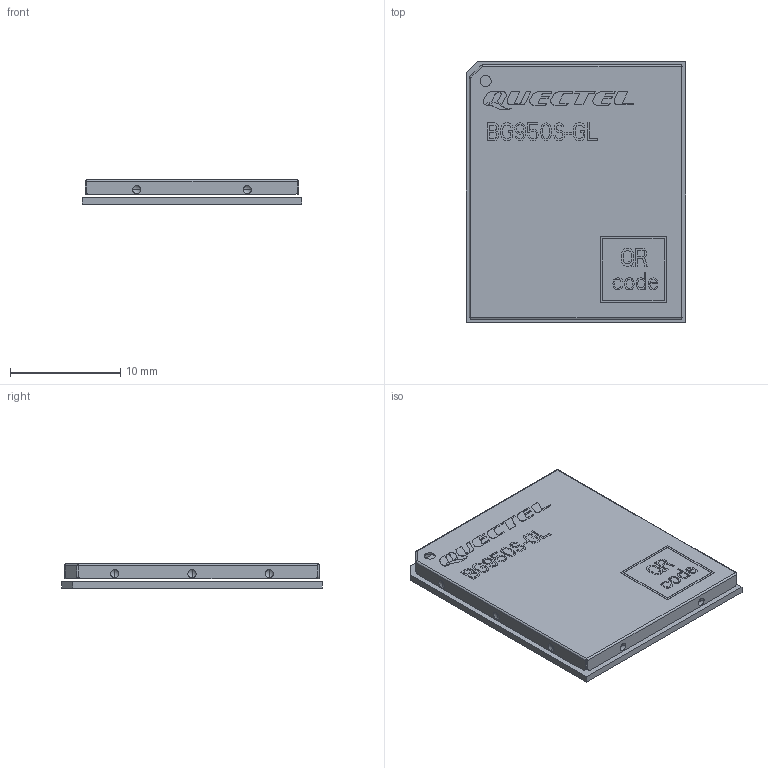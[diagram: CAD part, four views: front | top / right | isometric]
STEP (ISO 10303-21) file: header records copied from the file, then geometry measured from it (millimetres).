
FILE_DESCRIPTION((''),'2;1');
FILE_NAME('BG950S-GL_3D_DIMENSION_20250415_ASM','2025-04-15T14:42:04',('admin'),(''),'CREO PARAMETRIC BY PTC INC, 2024063','CREO PARAMETRIC BY PTC INC, 2024063','');
FILE_SCHEMA(('CONFIG_CONTROL_DESIGN','SHAPE_APPEARANCE_LAYERS_GROUPS'));
Length unit declared in the file: millimetre
Products named in the file (3): BG950S-GL_PCB; BG950S-GL_COVER; BG950S-GL_3D_DIMENSION_20250415_ASM
Assembly tree (2 placements, depth 2):
  BG950S-GL_3D_DIMENSION_20250415_ASM
    BG950S-GL_PCB
    BG950S-GL_COVER
Bounding box: 19.9 x 23.6 x 2.2 mm (x, y, z)
Volume: 360.7 mm3; surface area: 2101.2 mm2
Topology: 2 solids, 2 shells, 1334 faces, 3539 edges, 2326 vertices
Faces by surface type: plane 1177, extrusion 100, sphere 40, cylinder 17
Entity records: 53222 total; most frequent: CARTESIAN_POINT 8077, ORIENTED_EDGE 6998, DIRECTION 5991, PRESENTATION_STYLE_ASSIGNMENT 3628, STYLED_ITEM 3501, CURVE_STYLE 3499, EDGE_CURVE 3499, VECTOR 3285
